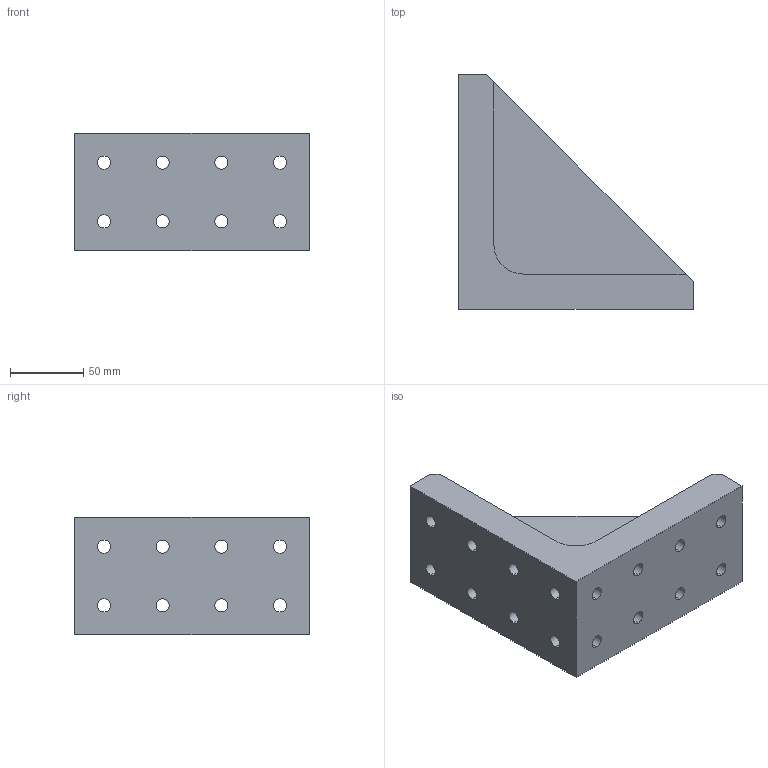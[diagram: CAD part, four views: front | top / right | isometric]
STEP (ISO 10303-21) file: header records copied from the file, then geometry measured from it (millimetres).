
FILE_DESCRIPTION (( 'STEP AP203' ), '1' );
FILE_NAME ('99901287_Winkel 8 160x160-80.step', '2021-01-20T12:55:19', ( '' ), ( '' ), 'SwSTEP 2.0', 'SolidWorks 2021', '' );
FILE_SCHEMA (( 'CONFIG_CONTROL_DESIGN' ));
Length unit declared in the file: millimetre
Products named in the file (1): 99901287_Winkel 8 160x160-80
Bounding box: 160 x 160 x 80 mm (x, y, z)
Volume: 361234.3 mm3; surface area: 102190.2 mm2
Topology: 1 solids, 1 shells, 57 faces, 165 edges, 110 vertices
Faces by surface type: cylinder 34, plane 23
Entity records: 2048 total; most frequent: DIRECTION 349, CARTESIAN_POINT 333, ORIENTED_EDGE 330, EDGE_CURVE 165, AXIS2_PLACEMENT_3D 126, VERTEX_POINT 110, LINE 97, VECTOR 97
